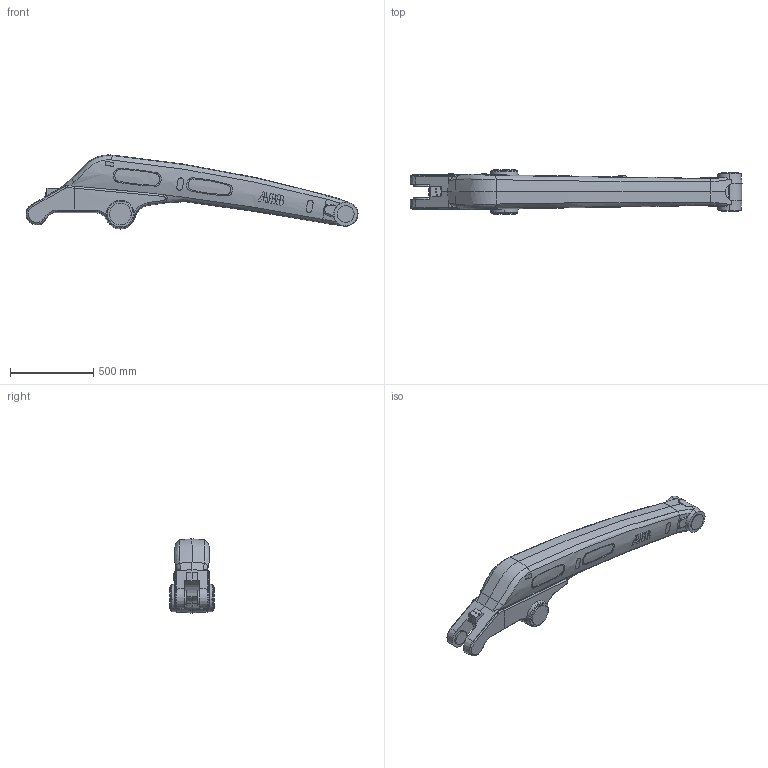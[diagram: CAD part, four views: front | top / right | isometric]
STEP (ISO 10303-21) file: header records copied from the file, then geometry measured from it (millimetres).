
FILE_DESCRIPTION (( 'STEP AP214' ), '1' );
FILE_NAME ('IRB760_445-318_LINK3a_CAD_rev01.STEP', '2020-01-31T12:24:59', ( '' ), ( '' ), 'SwSTEP 2.0', 'SolidWorks 2018', '' );
FILE_SCHEMA (( 'AUTOMOTIVE_DESIGN' ));
Length unit declared in the file: millimetre
Products named in the file (2): IRB760_445-318_LINK3a_CAD_rev01
Bounding box: 1988.53 x 267 x 444.13 mm (x, y, z)
Volume: 80418255.9 mm3; surface area: 1679288.3 mm2
Topology: 1 solids, 1 shells, 507 faces, 1358 edges, 901 vertices
Faces by surface type: plane 252, bspline 131, cylinder 65, cone 59
Entity records: 56473 total; most frequent: CARTESIAN_POINT 40008, ORIENTED_EDGE 2700, DIRECTION 1488, EDGE_CURVE 1350, VERTEX_POINT 901, B_SPLINE_CURVE_WITH_KNOTS 725, EDGE_LOOP 563, UNCERTAINTY_MEASURE_WITH_UNIT 510
